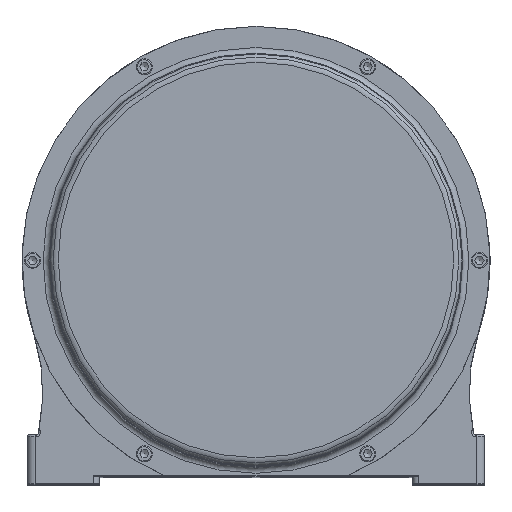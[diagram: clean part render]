
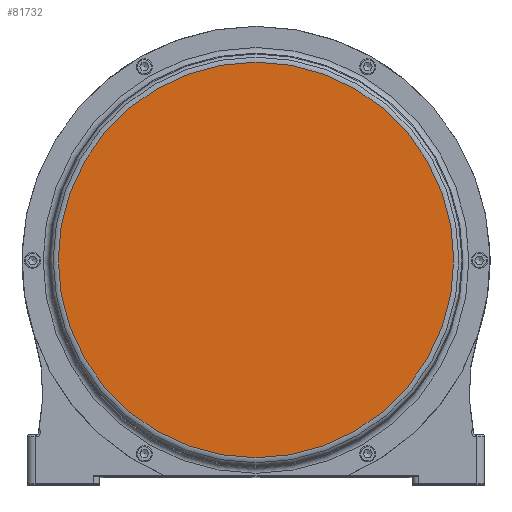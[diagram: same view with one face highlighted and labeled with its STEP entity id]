
A CAD part, top view. The second image highlights one B-rep face of the part: STEP entity #81732.
In plain terms, the highlighted planar face has unit normal (0, 0, 1).
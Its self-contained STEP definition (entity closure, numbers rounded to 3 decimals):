
#21029=FACE_OUTER_BOUND('',#25901,.T.);
#25901=EDGE_LOOP('',(#59553));
#31259=CIRCLE('',#88321,196.5);
#34227=VERTEX_POINT('',#150578);
#43551=EDGE_CURVE('',#34227,#34227,#31259,.T.);
#59553=ORIENTED_EDGE('',*,*,#43551,.T.);
#75778=PLANE('',#88320);
#81732=ADVANCED_FACE('',(#21029),#75778,.T.);
#88320=AXIS2_PLACEMENT_3D('',#150577,#99387,#99388);
#88321=AXIS2_PLACEMENT_3D('',#150579,#99389,#99390);
#99387=DIRECTION('center_axis',(0.,0.,
1.));
#99388=DIRECTION('ref_axis',(0.,1.,0.));
#99389=DIRECTION('center_axis',(0.,0.,
1.));
#99390=DIRECTION('ref_axis',(-1.,0.,0.));
#150577=CARTESIAN_POINT('Origin',(1.525,-1.383,466.5));
#150578=CARTESIAN_POINT('',(1.525,-197.883,466.5));
#150579=CARTESIAN_POINT('Origin',(1.525,-1.383,466.5));
